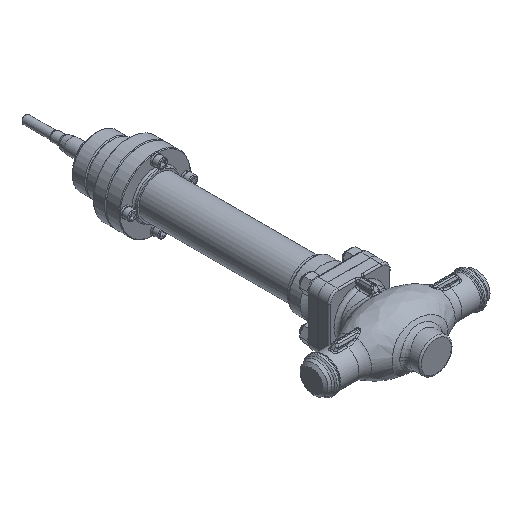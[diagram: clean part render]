
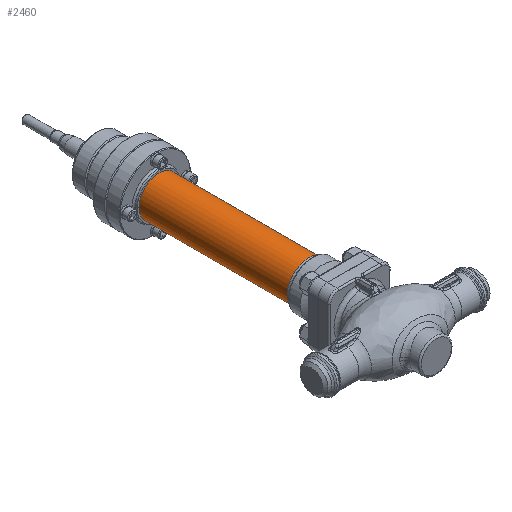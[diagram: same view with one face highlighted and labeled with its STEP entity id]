
A CAD part, isometric view. The second image highlights one B-rep face of the part: STEP entity #2460.
In plain terms, the highlighted cylindrical face has radius 25 mm (diameter 50 mm), a full revolution.
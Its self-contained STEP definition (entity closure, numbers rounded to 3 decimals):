
#1380=CYLINDRICAL_SURFACE('',#9254,25.);
#2460=ADVANCED_FACE('',(#2916,#2917),#1380,.T.);
#2916=FACE_BOUND('',#3590,.T.);
#2917=FACE_BOUND('',#3591,.T.);
#3590=EDGE_LOOP('',(#5634));
#3591=EDGE_LOOP('',(#5635));
#5634=ORIENTED_EDGE('',*,*,#7712,.F.);
#5635=ORIENTED_EDGE('',*,*,#7711,.T.);
#6633=VERTEX_POINT('',#17040);
#6634=VERTEX_POINT('',#17043);
#7711=EDGE_CURVE('',#6633,#6633,#8334,.T.);
#7712=EDGE_CURVE('',#6634,#6634,#8335,.T.);
#8334=CIRCLE('',#9251,25.);
#8335=CIRCLE('',#9253,25.);
#9251=AXIS2_PLACEMENT_3D('',#17039,#11426,#11427);
#9253=AXIS2_PLACEMENT_3D('',#17042,#11430,#11431);
#9254=AXIS2_PLACEMENT_3D('',#17044,#11432,#11433);
#11426=DIRECTION('',(0.,-1.,0.));
#11427=DIRECTION('',(1.,0.,0.));
#11430=DIRECTION('',(0.,-1.,0.));
#11431=DIRECTION('',(1.,0.,0.));
#11432=DIRECTION('',(0.,1.,0.));
#11433=DIRECTION('',(1.,0.,0.));
#17039=CARTESIAN_POINT('',(0.,302.,0.));
#17040=CARTESIAN_POINT('',(25.,302.,0.));
#17042=CARTESIAN_POINT('',(0.,104.,0.));
#17043=CARTESIAN_POINT('',(25.,104.,0.));
#17044=CARTESIAN_POINT('',(0.,96.,0.));
